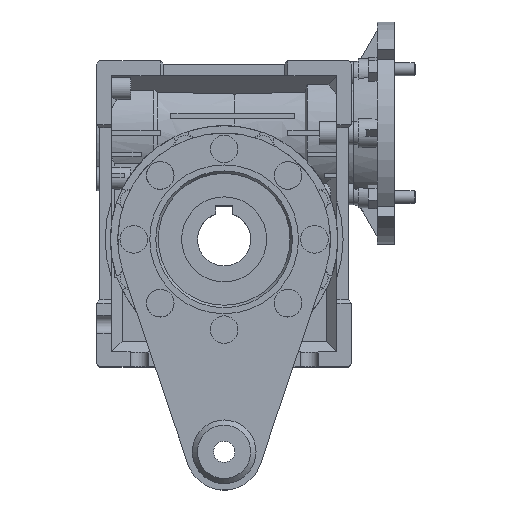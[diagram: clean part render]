
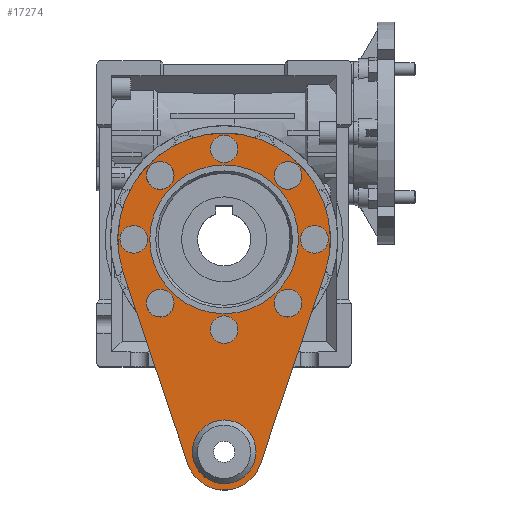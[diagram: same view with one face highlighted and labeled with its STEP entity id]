
A CAD part, top view. The second image highlights one B-rep face of the part: STEP entity #17274.
In plain terms, the highlighted planar face has unit normal (0, 0, 1).
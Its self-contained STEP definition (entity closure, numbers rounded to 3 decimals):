
#697=PLANE('',#18799);
#2417=LINE('',#28734,#3946);
#2422=LINE('',#28748,#3951);
#3946=VECTOR('',#23153,1000.);
#3951=VECTOR('',#23166,1000.);
#8094=ORIENTED_EDGE('',*,*,#11071,.T.);
#8095=ORIENTED_EDGE('',*,*,#11072,.T.);
#8096=ORIENTED_EDGE('',*,*,#11073,.T.);
#8097=ORIENTED_EDGE('',*,*,#11074,.T.);
#8098=ORIENTED_EDGE('',*,*,#11075,.T.);
#8099=ORIENTED_EDGE('',*,*,#11076,.T.);
#8100=ORIENTED_EDGE('',*,*,#11077,.T.);
#8101=ORIENTED_EDGE('',*,*,#11078,.T.);
#8102=ORIENTED_EDGE('',*,*,#11079,.T.);
#8103=ORIENTED_EDGE('',*,*,#11067,.F.);
#8104=ORIENTED_EDGE('',*,*,#11059,.T.);
#8105=ORIENTED_EDGE('',*,*,#11063,.T.);
#8106=ORIENTED_EDGE('',*,*,#11066,.T.);
#8107=ORIENTED_EDGE('',*,*,#11070,.T.);
#11059=EDGE_CURVE('',#12891,#12890,#2417,.T.);
#11063=EDGE_CURVE('',#12890,#12893,#13698,.T.);
#11066=EDGE_CURVE('',#12893,#12895,#2422,.T.);
#11067=EDGE_CURVE('',#12896,#12896,#13699,.T.);
#11070=EDGE_CURVE('',#12895,#12891,#13702,.T.);
#11071=EDGE_CURVE('',#12898,#12898,#13703,.F.);
#11072=EDGE_CURVE('',#12899,#12899,#13704,.F.);
#11073=EDGE_CURVE('',#12900,#12900,#13705,.F.);
#11074=EDGE_CURVE('',#12901,#12901,#13706,.F.);
#11075=EDGE_CURVE('',#12902,#12902,#13707,.F.);
#11076=EDGE_CURVE('',#12903,#12903,#13708,.F.);
#11077=EDGE_CURVE('',#12904,#12904,#13709,.F.);
#11078=EDGE_CURVE('',#12905,#12905,#13710,.F.);
#11079=EDGE_CURVE('',#12906,#12906,#13711,.T.);
#12890=VERTEX_POINT('',#28733);
#12891=VERTEX_POINT('',#28735);
#12893=VERTEX_POINT('',#28741);
#12895=VERTEX_POINT('',#28747);
#12896=VERTEX_POINT('',#28751);
#12898=VERTEX_POINT('',#28759);
#12899=VERTEX_POINT('',#28761);
#12900=VERTEX_POINT('',#28763);
#12901=VERTEX_POINT('',#28765);
#12902=VERTEX_POINT('',#28767);
#12903=VERTEX_POINT('',#28769);
#12904=VERTEX_POINT('',#28771);
#12905=VERTEX_POINT('',#28773);
#12906=VERTEX_POINT('',#28775);
#13698=CIRCLE('',#18791,50.);
#13699=CIRCLE('',#18794,35.);
#13702=CIRCLE('',#18798,18.);
#13703=CIRCLE('',#18800,6.5);
#13704=CIRCLE('',#18801,6.5);
#13705=CIRCLE('',#18802,6.5);
#13706=CIRCLE('',#18803,6.5);
#13707=CIRCLE('',#18804,6.5);
#13708=CIRCLE('',#18805,6.5);
#13709=CIRCLE('',#18806,6.5);
#13710=CIRCLE('',#18807,6.5);
#13711=CIRCLE('',#18808,15.);
#14827=EDGE_LOOP('',(#8094));
#14828=EDGE_LOOP('',(#8095));
#14829=EDGE_LOOP('',(#8096));
#14830=EDGE_LOOP('',(#8097));
#14831=EDGE_LOOP('',(#8098));
#14832=EDGE_LOOP('',(#8099));
#14833=EDGE_LOOP('',(#8100));
#14834=EDGE_LOOP('',(#8101));
#14835=EDGE_LOOP('',(#8102));
#14836=EDGE_LOOP('',(#8103));
#14837=EDGE_LOOP('',(#8104,#8105,#8106,#8107));
#16000=FACE_BOUND('',#14827,.T.);
#16001=FACE_BOUND('',#14828,.T.);
#16002=FACE_BOUND('',#14829,.T.);
#16003=FACE_BOUND('',#14830,.T.);
#16004=FACE_BOUND('',#14831,.T.);
#16005=FACE_BOUND('',#14832,.T.);
#16006=FACE_BOUND('',#14833,.T.);
#16007=FACE_BOUND('',#14834,.T.);
#16008=FACE_BOUND('',#14835,.T.);
#16009=FACE_BOUND('',#14836,.T.);
#16010=FACE_BOUND('',#14837,.T.);
#17274=ADVANCED_FACE('',(#16000,#16001,#16002,#16003,#16004,#16005,#16006,
#16007,#16008,#16009,#16010),#697,.T.);
#18791=AXIS2_PLACEMENT_3D('',#28742,#23160,#23161);
#18794=AXIS2_PLACEMENT_3D('',#28750,#23169,#23170);
#18798=AXIS2_PLACEMENT_3D('',#28756,#23177,#23178);
#18799=AXIS2_PLACEMENT_3D('',#28757,#23179,#23180);
#18800=AXIS2_PLACEMENT_3D('',#28758,#23181,#23182);
#18801=AXIS2_PLACEMENT_3D('',#28760,#23183,#23184);
#18802=AXIS2_PLACEMENT_3D('',#28762,#23185,#23186);
#18803=AXIS2_PLACEMENT_3D('',#28764,#23187,#23188);
#18804=AXIS2_PLACEMENT_3D('',#28766,#23189,#23190);
#18805=AXIS2_PLACEMENT_3D('',#28768,#23191,#23192);
#18806=AXIS2_PLACEMENT_3D('',#28770,#23193,#23194);
#18807=AXIS2_PLACEMENT_3D('',#28772,#23195,#23196);
#18808=AXIS2_PLACEMENT_3D('',#28774,#23197,#23198);
#23153=DIRECTION('',(0.32,0.947,0.));
#23160=DIRECTION('',(0.,0.,1.));
#23161=DIRECTION('',(1.,0.,0.));
#23166=DIRECTION('',(0.32,-0.947,0.));
#23169=DIRECTION('',(0.,0.,1.));
#23170=DIRECTION('',(1.,0.,0.));
#23177=DIRECTION('',(0.,0.,1.));
#23178=DIRECTION('',(1.,0.,0.));
#23179=DIRECTION('',(0.,0.,1.));
#23180=DIRECTION('',(1.,0.,0.));
#23181=DIRECTION('',(0.,0.,1.));
#23182=DIRECTION('',(1.,0.,0.));
#23183=DIRECTION('',(0.,0.,1.));
#23184=DIRECTION('',(1.,0.,0.));
#23185=DIRECTION('',(0.,0.,1.));
#23186=DIRECTION('',(1.,0.,0.));
#23187=DIRECTION('',(0.,0.,1.));
#23188=DIRECTION('',(1.,0.,0.));
#23189=DIRECTION('',(0.,0.,1.));
#23190=DIRECTION('',(1.,0.,0.));
#23191=DIRECTION('',(0.,0.,1.));
#23192=DIRECTION('',(1.,0.,0.));
#23193=DIRECTION('',(0.,0.,1.));
#23194=DIRECTION('',(1.,0.,0.));
#23195=DIRECTION('',(0.,0.,1.));
#23196=DIRECTION('',(1.,0.,0.));
#23197=DIRECTION('',(0.,0.,-1.));
#23198=DIRECTION('',(-1.,0.,0.));
#28733=CARTESIAN_POINT('',(47.371,-16.,2.));
#28734=CARTESIAN_POINT('',(17.054,-105.76,2.));
#28735=CARTESIAN_POINT('',(17.054,-105.76,2.));
#28741=CARTESIAN_POINT('',(-47.371,-16.,2.));
#28742=CARTESIAN_POINT('',(0.,0.,2.));
#28747=CARTESIAN_POINT('',(-17.054,-105.76,2.));
#28748=CARTESIAN_POINT('',(-47.371,-16.,2.));
#28750=CARTESIAN_POINT('',(0.,0.,2.));
#28751=CARTESIAN_POINT('',(35.,0.,2.));
#28756=CARTESIAN_POINT('',(0.,-100.,2.));
#28757=CARTESIAN_POINT('',(0.,0.,2.));
#28758=CARTESIAN_POINT('',(-42.5,0.,2.));
#28759=CARTESIAN_POINT('',(-36.,0.,2.));
#28760=CARTESIAN_POINT('',(-30.052,-30.052,2.));
#28761=CARTESIAN_POINT('',(-23.552,-30.052,2.));
#28762=CARTESIAN_POINT('',(0.,-42.5,2.));
#28763=CARTESIAN_POINT('',(6.5,-42.5,2.));
#28764=CARTESIAN_POINT('',(30.052,-30.052,2.));
#28765=CARTESIAN_POINT('',(36.552,-30.052,2.));
#28766=CARTESIAN_POINT('',(42.5,0.,2.));
#28767=CARTESIAN_POINT('',(49.,0.,2.));
#28768=CARTESIAN_POINT('',(30.052,30.052,2.));
#28769=CARTESIAN_POINT('',(36.552,30.052,2.));
#28770=CARTESIAN_POINT('',(-30.052,30.052,2.));
#28771=CARTESIAN_POINT('',(-23.552,30.052,2.));
#28772=CARTESIAN_POINT('',(0.,42.5,2.));
#28773=CARTESIAN_POINT('',(6.5,42.5,2.));
#28774=CARTESIAN_POINT('',(0.,-100.,2.));
#28775=CARTESIAN_POINT('',(-15.,-100.,2.));
